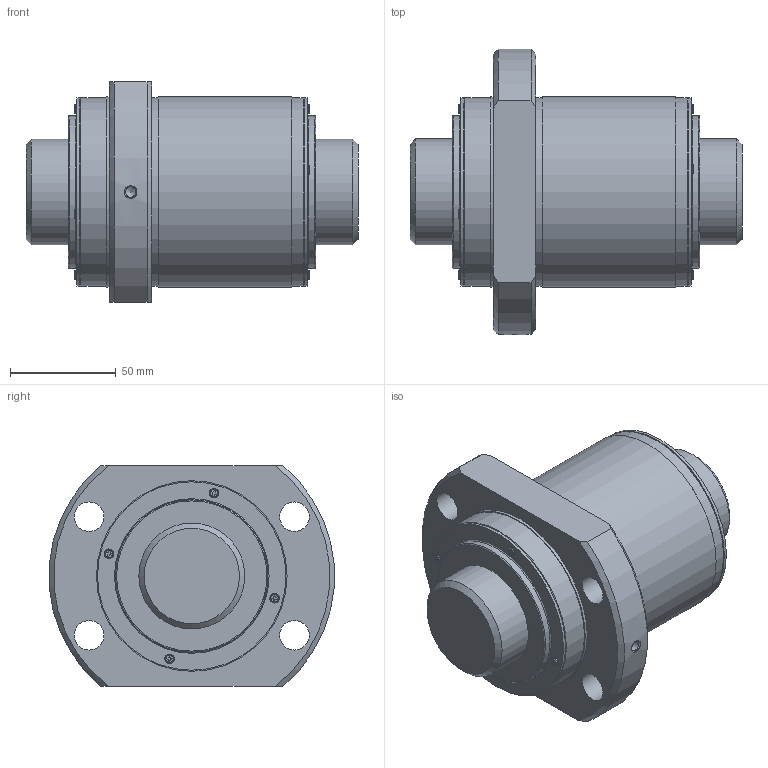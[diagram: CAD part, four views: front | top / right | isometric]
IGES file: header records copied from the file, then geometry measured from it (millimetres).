
Start section: Data from Parasolid IGES Translator 26.0.171, Copyright(c) 2006 Siemens PLM Software. All Rights Reserved.
Global section: file name: BLK5050-7.2ZZ+156.8LC7T_000.igs; native system: By Siemens PLM Incorporated; preprocessor: XPlus GENERIC/IGES 26.0.171; author: Noname; organization: Noname; date: 20250611.063150; units: millimetre
Bounding box: 156.8 x 134.78 x 104 mm (x, y, z)
Surface area: 104911.4 mm2 (no closed solid volume)
Topology: 0 solids, 0 shells, 215 faces, 1089 edges, 1019 vertices
Faces by surface type: extrusion 127, revolution 88
